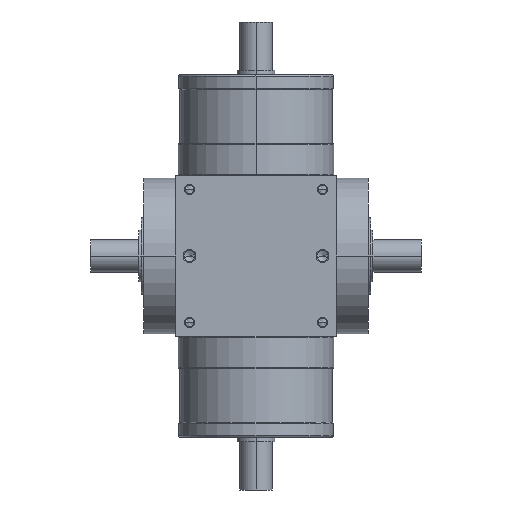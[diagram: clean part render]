
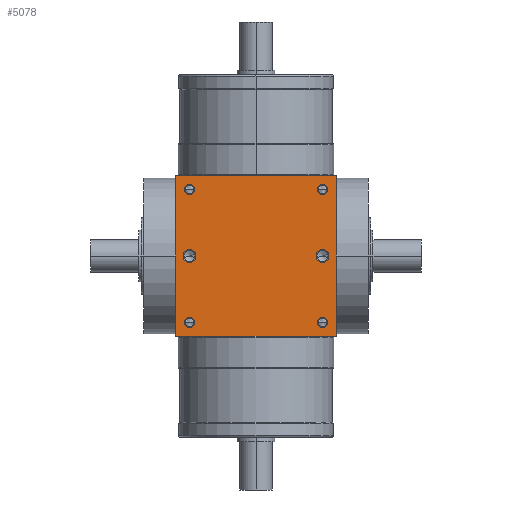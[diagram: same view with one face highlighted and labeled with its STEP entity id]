
A CAD part, front view. The second image highlights one B-rep face of the part: STEP entity #5078.
In plain terms, the highlighted planar face has unit normal (0, -1, 0).
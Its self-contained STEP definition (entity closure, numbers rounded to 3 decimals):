
#5=DIRECTION('',(1.,0.,0.));
#6=VECTOR('',#5,65.);
#7=CARTESIAN_POINT('',(-32.5,-32.5,-32.5));
#8=LINE('',#7,#6);
#165=DIRECTION('',(0.,0.,1.));
#166=VECTOR('',#165,65.);
#167=CARTESIAN_POINT('',(32.5,-32.5,-32.5));
#168=LINE('',#167,#166);
#219=DIRECTION('',(0.,0.,1.));
#220=VECTOR('',#219,65.);
#221=CARTESIAN_POINT('',(-32.5,-32.5,-32.5));
#222=LINE('',#221,#220);
#223=CARTESIAN_POINT('',(27.,-32.5,27.));
#224=DIRECTION('',(0.,1.,0.));
#225=DIRECTION('',(-1.,0.,0.));
#226=AXIS2_PLACEMENT_3D('',#223,#224,#225);
#228=CARTESIAN_POINT('',(27.,-32.5,27.));
#229=DIRECTION('',(0.,1.,0.));
#230=DIRECTION('',(1.,0.,0.));
#231=AXIS2_PLACEMENT_3D('',#228,#229,#230);
#233=CARTESIAN_POINT('',(-27.,-32.5,27.));
#234=DIRECTION('',(0.,1.,0.));
#235=DIRECTION('',(-1.,0.,0.));
#236=AXIS2_PLACEMENT_3D('',#233,#234,#235);
#238=CARTESIAN_POINT('',(-27.,-32.5,27.));
#239=DIRECTION('',(0.,1.,0.));
#240=DIRECTION('',(1.,0.,0.));
#241=AXIS2_PLACEMENT_3D('',#238,#239,#240);
#243=CARTESIAN_POINT('',(27.,-32.5,-27.));
#244=DIRECTION('',(0.,1.,0.));
#245=DIRECTION('',(-1.,0.,0.));
#246=AXIS2_PLACEMENT_3D('',#243,#244,#245);
#248=CARTESIAN_POINT('',(27.,-32.5,-27.));
#249=DIRECTION('',(0.,1.,0.));
#250=DIRECTION('',(1.,0.,0.));
#251=AXIS2_PLACEMENT_3D('',#248,#249,#250);
#253=CARTESIAN_POINT('',(-27.,-32.5,-27.));
#254=DIRECTION('',(0.,1.,0.));
#255=DIRECTION('',(-1.,0.,0.));
#256=AXIS2_PLACEMENT_3D('',#253,#254,#255);
#258=CARTESIAN_POINT('',(-27.,-32.5,-27.));
#259=DIRECTION('',(0.,1.,0.));
#260=DIRECTION('',(1.,0.,0.));
#261=AXIS2_PLACEMENT_3D('',#258,#259,#260);
#263=CARTESIAN_POINT('',(-27.,-32.5,0.));
#264=DIRECTION('',(0.,1.,0.));
#265=DIRECTION('',(1.,0.,0.));
#266=AXIS2_PLACEMENT_3D('',#263,#264,#265);
#268=CARTESIAN_POINT('',(-27.,-32.5,0.));
#269=DIRECTION('',(0.,1.,0.));
#270=DIRECTION('',(-1.,0.,0.));
#271=AXIS2_PLACEMENT_3D('',#268,#269,#270);
#273=CARTESIAN_POINT('',(27.,-32.5,0.));
#274=DIRECTION('',(0.,1.,0.));
#275=DIRECTION('',(1.,0.,0.));
#276=AXIS2_PLACEMENT_3D('',#273,#274,#275);
#278=CARTESIAN_POINT('',(27.,-32.5,0.));
#279=DIRECTION('',(0.,1.,0.));
#280=DIRECTION('',(-1.,0.,0.));
#281=AXIS2_PLACEMENT_3D('',#278,#279,#280);
#295=DIRECTION('',(1.,0.,0.));
#296=VECTOR('',#295,65.);
#297=CARTESIAN_POINT('',(-32.5,-32.5,32.5));
#298=LINE('',#297,#296);
#4052=CARTESIAN_POINT('',(-32.5,-32.5,-32.5));
#4054=VERTEX_POINT('',#4052);
#4055=CARTESIAN_POINT('',(32.5,-32.5,-32.5));
#4056=VERTEX_POINT('',#4055);
#4060=CARTESIAN_POINT('',(-32.5,-32.5,32.5));
#4062=VERTEX_POINT('',#4060);
#4063=CARTESIAN_POINT('',(32.5,-32.5,32.5));
#4064=VERTEX_POINT('',#4063);
#4243=CARTESIAN_POINT('',(24.95,-32.5,27.));
#4244=CARTESIAN_POINT('',(29.05,-32.5,27.));
#4245=VERTEX_POINT('',#4243);
#4246=VERTEX_POINT('',#4244);
#4251=CARTESIAN_POINT('',(-29.05,-32.5,27.));
#4252=CARTESIAN_POINT('',(-24.95,-32.5,27.));
#4253=VERTEX_POINT('',#4251);
#4254=VERTEX_POINT('',#4252);
#4259=CARTESIAN_POINT('',(24.95,-32.5,-27.));
#4260=CARTESIAN_POINT('',(29.05,-32.5,-27.));
#4261=VERTEX_POINT('',#4259);
#4262=VERTEX_POINT('',#4260);
#4267=CARTESIAN_POINT('',(-29.05,-32.5,-27.));
#4268=CARTESIAN_POINT('',(-24.95,-32.5,-27.));
#4269=VERTEX_POINT('',#4267);
#4270=VERTEX_POINT('',#4268);
#4627=CARTESIAN_POINT('',(-24.4,-32.5,0.));
#4628=CARTESIAN_POINT('',(-29.6,-32.5,0.));
#4629=VERTEX_POINT('',#4627);
#4630=VERTEX_POINT('',#4628);
#4635=CARTESIAN_POINT('',(29.6,-32.5,0.));
#4636=CARTESIAN_POINT('',(24.4,-32.5,0.));
#4637=VERTEX_POINT('',#4635);
#4638=VERTEX_POINT('',#4636);
#5030=CARTESIAN_POINT('',(-32.5,-32.5,-32.5));
#5031=DIRECTION('',(0.,-1.,0.));
#5032=DIRECTION('',(1.,0.,0.));
#5033=AXIS2_PLACEMENT_3D('',#5030,#5031,#5032);
#5034=PLANE('',#5033);
#5035=ORIENTED_EDGE('',*,*,#4864,.F.);
#5036=ORIENTED_EDGE('',*,*,#4913,.T.);
#5038=ORIENTED_EDGE('',*,*,#5037,.T.);
#5039=ORIENTED_EDGE('',*,*,#4992,.F.);
#5040=EDGE_LOOP('',(#5035,#5036,#5038,#5039));
#5041=FACE_OUTER_BOUND('',#5040,.F.);
#5043=ORIENTED_EDGE('',*,*,#5042,.F.);
#5045=ORIENTED_EDGE('',*,*,#5044,.F.);
#5046=EDGE_LOOP('',(#5043,#5045));
#5047=FACE_BOUND('',#5046,.F.);
#5049=ORIENTED_EDGE('',*,*,#5048,.F.);
#5051=ORIENTED_EDGE('',*,*,#5050,.F.);
#5052=EDGE_LOOP('',(#5049,#5051));
#5053=FACE_BOUND('',#5052,.F.);
#5055=ORIENTED_EDGE('',*,*,#5054,.F.);
#5057=ORIENTED_EDGE('',*,*,#5056,.F.);
#5058=EDGE_LOOP('',(#5055,#5057));
#5059=FACE_BOUND('',#5058,.F.);
#5061=ORIENTED_EDGE('',*,*,#5060,.F.);
#5063=ORIENTED_EDGE('',*,*,#5062,.F.);
#5064=EDGE_LOOP('',(#5061,#5063));
#5065=FACE_BOUND('',#5064,.F.);
#5067=ORIENTED_EDGE('',*,*,#5066,.F.);
#5069=ORIENTED_EDGE('',*,*,#5068,.F.);
#5070=EDGE_LOOP('',(#5067,#5069));
#5071=FACE_BOUND('',#5070,.F.);
#5073=ORIENTED_EDGE('',*,*,#5072,.F.);
#5075=ORIENTED_EDGE('',*,*,#5074,.F.);
#5076=EDGE_LOOP('',(#5073,#5075));
#5077=FACE_BOUND('',#5076,.F.);
#5078=ADVANCED_FACE('',(#5041,#5047,#5053,#5059,#5065,#5071,#5077),#5034,.T.);
#227=CIRCLE('',#226,2.05);
#232=CIRCLE('',#231,2.05);
#237=CIRCLE('',#236,2.05);
#242=CIRCLE('',#241,2.05);
#247=CIRCLE('',#246,2.05);
#252=CIRCLE('',#251,2.05);
#257=CIRCLE('',#256,2.05);
#262=CIRCLE('',#261,2.05);
#267=CIRCLE('',#266,2.6);
#272=CIRCLE('',#271,2.6);
#277=CIRCLE('',#276,2.6);
#282=CIRCLE('',#281,2.6);
#4864=EDGE_CURVE('',#4054,#4056,#8,.T.);
#4913=EDGE_CURVE('',#4054,#4062,#222,.T.);
#4992=EDGE_CURVE('',#4056,#4064,#168,.T.);
#5037=EDGE_CURVE('',#4062,#4064,#298,.T.);
#5042=EDGE_CURVE('',#4245,#4246,#227,.T.);
#5044=EDGE_CURVE('',#4246,#4245,#232,.T.);
#5048=EDGE_CURVE('',#4253,#4254,#237,.T.);
#5050=EDGE_CURVE('',#4254,#4253,#242,.T.);
#5054=EDGE_CURVE('',#4261,#4262,#247,.T.);
#5056=EDGE_CURVE('',#4262,#4261,#252,.T.);
#5060=EDGE_CURVE('',#4269,#4270,#257,.T.);
#5062=EDGE_CURVE('',#4270,#4269,#262,.T.);
#5066=EDGE_CURVE('',#4629,#4630,#267,.T.);
#5068=EDGE_CURVE('',#4630,#4629,#272,.T.);
#5072=EDGE_CURVE('',#4637,#4638,#277,.T.);
#5074=EDGE_CURVE('',#4638,#4637,#282,.T.);
